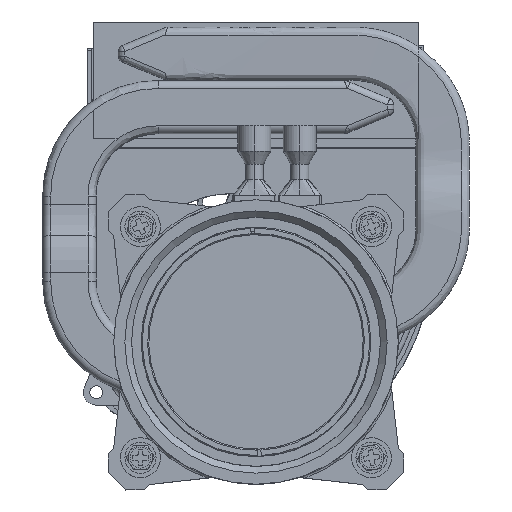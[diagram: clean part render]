
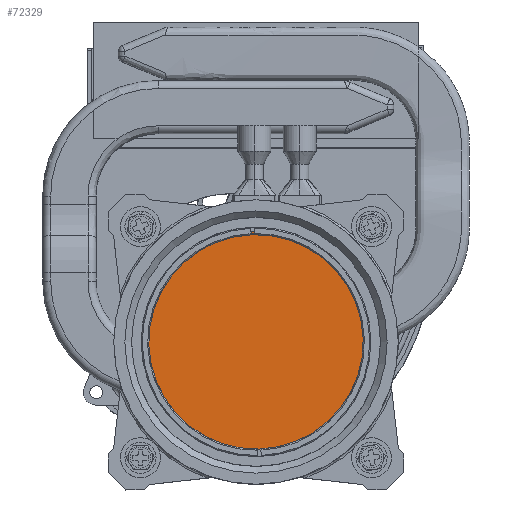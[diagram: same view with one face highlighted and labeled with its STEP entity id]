
A CAD part, top view. The second image highlights one B-rep face of the part: STEP entity #72329.
In plain terms, the highlighted planar face has unit normal (0, 0, 1).
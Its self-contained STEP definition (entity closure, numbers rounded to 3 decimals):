
#12629 = AXIS2_PLACEMENT_3D ( 'NONE', #24650, #83107, #53651 ) ;
#22732 = CIRCLE ( 'NONE', #75864, 25. ) ;
#22962 = DIRECTION ( 'NONE',  ( 0.102, 0.995, 0. ) ) ;
#24650 = CARTESIAN_POINT ( 'NONE',  ( -50.936, 5.235, 30.014 ) ) ;
#30291 = VERTEX_POINT ( 'NONE', #66864 ) ;
#30930 = ORIENTED_EDGE ( 'NONE', *, *, #54322, .F. ) ;
#31963 = CARTESIAN_POINT ( 'NONE',  ( 0., 0., 30.014 ) ) ;
#53651 = DIRECTION ( 'NONE',  ( 0.102, 0.995, 0. ) ) ;
#54322 = EDGE_CURVE ( 'NONE', #30291, #30291, #22732, .T. ) ;
#60935 = DIRECTION ( 'NONE',  ( 0., 0., -1. ) ) ;
#66864 = CARTESIAN_POINT ( 'NONE',  ( 2.556, 24.869, 30.014 ) ) ;
#66968 = PLANE ( 'NONE',  #12629 ) ;
#72329 = ADVANCED_FACE ( 'NONE', ( #88849 ), #66968, .T. ) ;
#73818 = EDGE_LOOP ( 'NONE', ( #30930 ) ) ;
#75864 = AXIS2_PLACEMENT_3D ( 'NONE', #31963, #60935, #22962 ) ;
#83107 = DIRECTION ( 'NONE',  ( 0., 0., 1. ) ) ;
#88849 = FACE_OUTER_BOUND ( 'NONE', #73818, .T. ) ;
